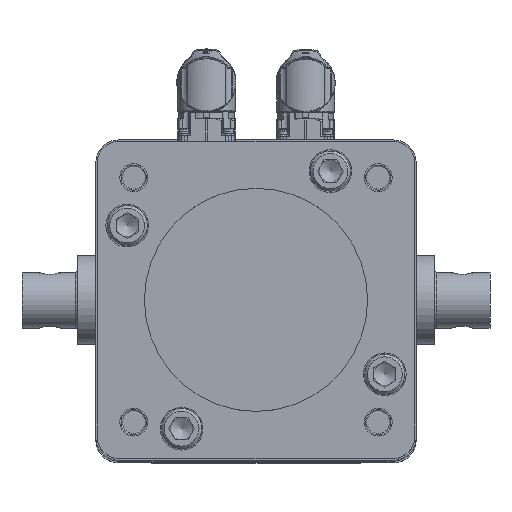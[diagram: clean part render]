
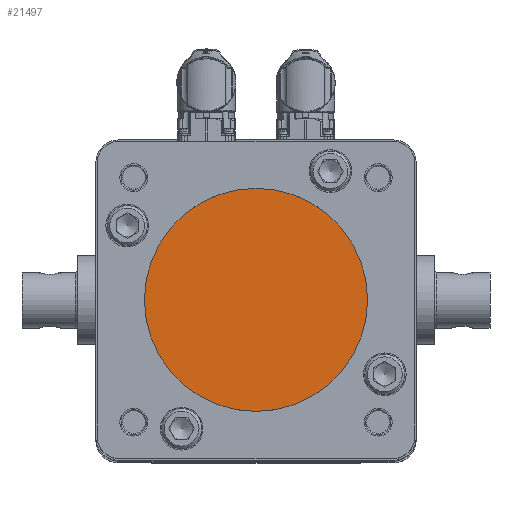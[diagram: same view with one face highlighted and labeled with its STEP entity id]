
A CAD part, top view. The second image highlights one B-rep face of the part: STEP entity #21497.
In plain terms, the highlighted planar face has unit normal (0, 0, 1).
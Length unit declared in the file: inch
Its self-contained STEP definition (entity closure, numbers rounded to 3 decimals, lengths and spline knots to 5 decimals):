
#1088 = CARTESIAN_POINT ( 'NONE',  ( 1.9685, 0., 4.95409 ) ) ;
#3084 = CARTESIAN_POINT ( 'NONE',  ( 0., 0., 4.95409 ) ) ;
#8807 = DIRECTION ( 'NONE',  ( 1., 0., 0. ) ) ;
#21497 = ADVANCED_FACE ( 'NONE', ( #78002 ), #34344, .T. ) ;
#27044 = DIRECTION ( 'NONE',  ( 1., 0., 0. ) ) ;
#27406 = CARTESIAN_POINT ( 'NONE',  ( 0., 0., 4.95409 ) ) ;
#27634 = CIRCLE ( 'NONE', #57324, 1.9685 ) ;
#34344 = PLANE ( 'NONE',  #53862 ) ;
#50168 = EDGE_LOOP ( 'NONE', ( #70294 ) ) ;
#53862 = AXIS2_PLACEMENT_3D ( 'NONE', #27406, #84053, #8807 ) ;
#57324 = AXIS2_PLACEMENT_3D ( 'NONE', #3084, #69312, #27044 ) ;
#69312 = DIRECTION ( 'NONE',  ( 0., 0., 1. ) ) ;
#69796 = EDGE_CURVE ( 'NONE', #72117, #72117, #27634, .T. ) ;
#70294 = ORIENTED_EDGE ( 'NONE', *, *, #69796, .T. ) ;
#72117 = VERTEX_POINT ( 'NONE', #1088 ) ;
#78002 = FACE_OUTER_BOUND ( 'NONE', #50168, .T. ) ;
#84053 = DIRECTION ( 'NONE',  ( 0., 0., 1. ) ) ;
